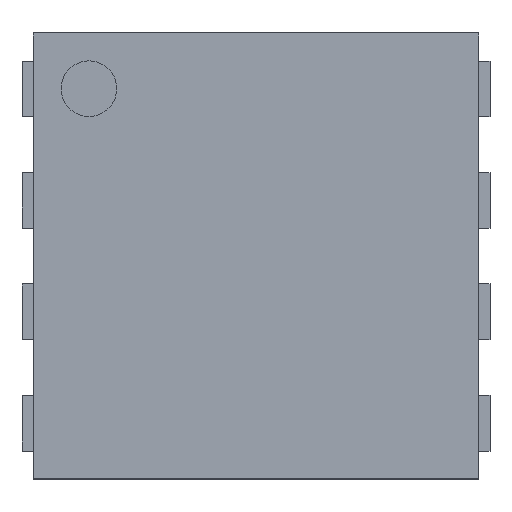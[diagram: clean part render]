
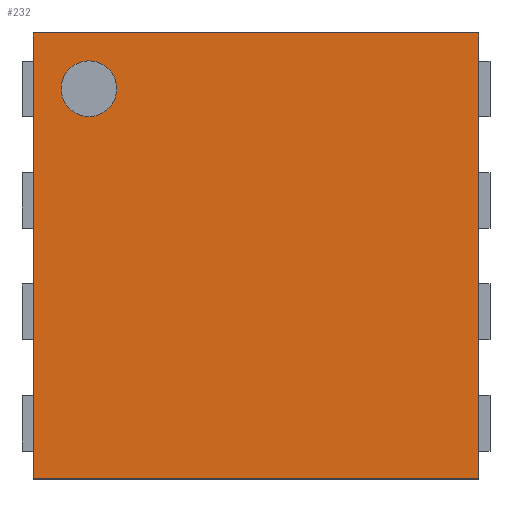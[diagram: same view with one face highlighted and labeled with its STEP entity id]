
A CAD part, top view. The second image highlights one B-rep face of the part: STEP entity #232.
In plain terms, the highlighted planar face has unit normal (0, 0, 1).
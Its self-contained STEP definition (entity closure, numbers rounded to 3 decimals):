
#43 = VERTEX_POINT('',#44);
#44 = CARTESIAN_POINT('',(-1.,-1.,0.81));
#51 = PLANE('',#52);
#52 = AXIS2_PLACEMENT_3D('',#53,#54,#55);
#53 = CARTESIAN_POINT('',(-1.,-1.,0.05));
#54 = DIRECTION('',(1.,0.,0.));
#55 = DIRECTION('',(0.,0.,1.));
#63 = PLANE('',#64);
#64 = AXIS2_PLACEMENT_3D('',#65,#66,#67);
#65 = CARTESIAN_POINT('',(-1.,-1.,0.05));
#66 = DIRECTION('',(0.,1.,0.));
#67 = DIRECTION('',(0.,0.,1.));
#104 = VERTEX_POINT('',#105);
#105 = CARTESIAN_POINT('',(-1.,1.,0.81));
#119 = PLANE('',#120);
#120 = AXIS2_PLACEMENT_3D('',#121,#122,#123);
#121 = CARTESIAN_POINT('',(-1.,1.,0.05));
#122 = DIRECTION('',(0.,1.,0.));
#123 = DIRECTION('',(0.,0.,1.));
#131 = EDGE_CURVE('',#43,#104,#132,.T.);
#132 = SURFACE_CURVE('',#133,(#137,#144),.PCURVE_S1.);
#133 = LINE('',#134,#135);
#134 = CARTESIAN_POINT('',(-1.,-1.,0.81));
#135 = VECTOR('',#136,1.);
#136 = DIRECTION('',(0.,1.,0.));
#137 = PCURVE('',#51,#138);
#138 = DEFINITIONAL_REPRESENTATION('',(#139),#143);
#139 = LINE('',#140,#141);
#140 = CARTESIAN_POINT('',(0.76,0.));
#141 = VECTOR('',#142,1.);
#142 = DIRECTION('',(0.,-1.));
#143 = ( GEOMETRIC_REPRESENTATION_CONTEXT(2) 
PARAMETRIC_REPRESENTATION_CONTEXT() REPRESENTATION_CONTEXT('2D SPACE',''
  ) );
#144 = PCURVE('',#145,#150);
#145 = PLANE('',#146);
#146 = AXIS2_PLACEMENT_3D('',#147,#148,#149);
#147 = CARTESIAN_POINT('',(-1.,-1.,0.81));
#148 = DIRECTION('',(0.,0.,1.));
#149 = DIRECTION('',(1.,0.,0.));
#150 = DEFINITIONAL_REPRESENTATION('',(#151),#155);
#151 = LINE('',#152,#153);
#152 = CARTESIAN_POINT('',(0.,0.));
#153 = VECTOR('',#154,1.);
#154 = DIRECTION('',(0.,1.));
#155 = ( GEOMETRIC_REPRESENTATION_CONTEXT(2) 
PARAMETRIC_REPRESENTATION_CONTEXT() REPRESENTATION_CONTEXT('2D SPACE',''
  ) );
#184 = EDGE_CURVE('',#43,#185,#187,.T.);
#185 = VERTEX_POINT('',#186);
#186 = CARTESIAN_POINT('',(1.,-1.,0.81));
#187 = SURFACE_CURVE('',#188,(#192,#199),.PCURVE_S1.);
#188 = LINE('',#189,#190);
#189 = CARTESIAN_POINT('',(-1.,-1.,0.81));
#190 = VECTOR('',#191,1.);
#191 = DIRECTION('',(1.,0.,0.));
#192 = PCURVE('',#63,#193);
#193 = DEFINITIONAL_REPRESENTATION('',(#194),#198);
#194 = LINE('',#195,#196);
#195 = CARTESIAN_POINT('',(0.76,0.));
#196 = VECTOR('',#197,1.);
#197 = DIRECTION('',(0.,1.));
#198 = ( GEOMETRIC_REPRESENTATION_CONTEXT(2) 
PARAMETRIC_REPRESENTATION_CONTEXT() REPRESENTATION_CONTEXT('2D SPACE',''
  ) );
#199 = PCURVE('',#145,#200);
#200 = DEFINITIONAL_REPRESENTATION('',(#201),#205);
#201 = LINE('',#202,#203);
#202 = CARTESIAN_POINT('',(0.,0.));
#203 = VECTOR('',#204,1.);
#204 = DIRECTION('',(1.,0.));
#205 = ( GEOMETRIC_REPRESENTATION_CONTEXT(2) 
PARAMETRIC_REPRESENTATION_CONTEXT() REPRESENTATION_CONTEXT('2D SPACE',''
  ) );
#221 = PLANE('',#222);
#222 = AXIS2_PLACEMENT_3D('',#223,#224,#225);
#223 = CARTESIAN_POINT('',(1.,-1.,0.05));
#224 = DIRECTION('',(1.,0.,0.));
#225 = DIRECTION('',(0.,0.,1.));
#232 = ADVANCED_FACE('',(#233,#281),#145,.T.);
#233 = FACE_BOUND('',#234,.T.);
#234 = EDGE_LOOP('',(#235,#236,#237,#260));
#235 = ORIENTED_EDGE('',*,*,#131,.F.);
#236 = ORIENTED_EDGE('',*,*,#184,.T.);
#237 = ORIENTED_EDGE('',*,*,#238,.T.);
#238 = EDGE_CURVE('',#185,#239,#241,.T.);
#239 = VERTEX_POINT('',#240);
#240 = CARTESIAN_POINT('',(1.,1.,0.81));
#241 = SURFACE_CURVE('',#242,(#246,#253),.PCURVE_S1.);
#242 = LINE('',#243,#244);
#243 = CARTESIAN_POINT('',(1.,-1.,0.81));
#244 = VECTOR('',#245,1.);
#245 = DIRECTION('',(0.,1.,0.));
#246 = PCURVE('',#145,#247);
#247 = DEFINITIONAL_REPRESENTATION('',(#248),#252);
#248 = LINE('',#249,#250);
#249 = CARTESIAN_POINT('',(2.,0.));
#250 = VECTOR('',#251,1.);
#251 = DIRECTION('',(0.,1.));
#252 = ( GEOMETRIC_REPRESENTATION_CONTEXT(2) 
PARAMETRIC_REPRESENTATION_CONTEXT() REPRESENTATION_CONTEXT('2D SPACE',''
  ) );
#253 = PCURVE('',#221,#254);
#254 = DEFINITIONAL_REPRESENTATION('',(#255),#259);
#255 = LINE('',#256,#257);
#256 = CARTESIAN_POINT('',(0.76,0.));
#257 = VECTOR('',#258,1.);
#258 = DIRECTION('',(0.,-1.));
#259 = ( GEOMETRIC_REPRESENTATION_CONTEXT(2) 
PARAMETRIC_REPRESENTATION_CONTEXT() REPRESENTATION_CONTEXT('2D SPACE',''
  ) );
#260 = ORIENTED_EDGE('',*,*,#261,.F.);
#261 = EDGE_CURVE('',#104,#239,#262,.T.);
#262 = SURFACE_CURVE('',#263,(#267,#274),.PCURVE_S1.);
#263 = LINE('',#264,#265);
#264 = CARTESIAN_POINT('',(-1.,1.,0.81));
#265 = VECTOR('',#266,1.);
#266 = DIRECTION('',(1.,0.,0.));
#267 = PCURVE('',#145,#268);
#268 = DEFINITIONAL_REPRESENTATION('',(#269),#273);
#269 = LINE('',#270,#271);
#270 = CARTESIAN_POINT('',(0.,2.));
#271 = VECTOR('',#272,1.);
#272 = DIRECTION('',(1.,0.));
#273 = ( GEOMETRIC_REPRESENTATION_CONTEXT(2) 
PARAMETRIC_REPRESENTATION_CONTEXT() REPRESENTATION_CONTEXT('2D SPACE',''
  ) );
#274 = PCURVE('',#119,#275);
#275 = DEFINITIONAL_REPRESENTATION('',(#276),#280);
#276 = LINE('',#277,#278);
#277 = CARTESIAN_POINT('',(0.76,0.));
#278 = VECTOR('',#279,1.);
#279 = DIRECTION('',(0.,1.));
#280 = ( GEOMETRIC_REPRESENTATION_CONTEXT(2) 
PARAMETRIC_REPRESENTATION_CONTEXT() REPRESENTATION_CONTEXT('2D SPACE',''
  ) );
#281 = FACE_BOUND('',#282,.T.);
#282 = EDGE_LOOP('',(#283));
#283 = ORIENTED_EDGE('',*,*,#284,.F.);
#284 = EDGE_CURVE('',#285,#285,#287,.T.);
#285 = VERTEX_POINT('',#286);
#286 = CARTESIAN_POINT('',(-0.625,0.75,0.81));
#287 = SURFACE_CURVE('',#288,(#293,#300),.PCURVE_S1.);
#288 = CIRCLE('',#289,0.125);
#289 = AXIS2_PLACEMENT_3D('',#290,#291,#292);
#290 = CARTESIAN_POINT('',(-0.75,0.75,0.81));
#291 = DIRECTION('',(0.,0.,1.));
#292 = DIRECTION('',(1.,0.,0.));
#293 = PCURVE('',#145,#294);
#294 = DEFINITIONAL_REPRESENTATION('',(#295),#299);
#295 = CIRCLE('',#296,0.125);
#296 = AXIS2_PLACEMENT_2D('',#297,#298);
#297 = CARTESIAN_POINT('',(0.25,1.75));
#298 = DIRECTION('',(1.,0.));
#299 = ( GEOMETRIC_REPRESENTATION_CONTEXT(2) 
PARAMETRIC_REPRESENTATION_CONTEXT() REPRESENTATION_CONTEXT('2D SPACE',''
  ) );
#300 = PCURVE('',#301,#306);
#301 = CYLINDRICAL_SURFACE('',#302,0.125);
#302 = AXIS2_PLACEMENT_3D('',#303,#304,#305);
#303 = CARTESIAN_POINT('',(-0.75,0.75,0.729));
#304 = DIRECTION('',(0.,0.,1.));
#305 = DIRECTION('',(1.,0.,0.));
#306 = DEFINITIONAL_REPRESENTATION('',(#307),#311);
#307 = LINE('',#308,#309);
#308 = CARTESIAN_POINT('',(0.,0.081));
#309 = VECTOR('',#310,1.);
#310 = DIRECTION('',(1.,0.));
#311 = ( GEOMETRIC_REPRESENTATION_CONTEXT(2) 
PARAMETRIC_REPRESENTATION_CONTEXT() REPRESENTATION_CONTEXT('2D SPACE',''
  ) );
